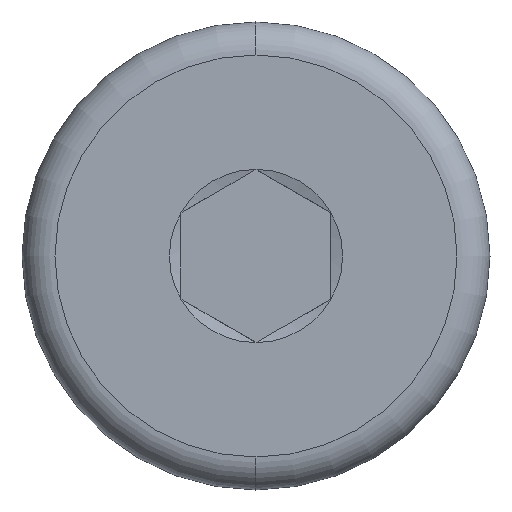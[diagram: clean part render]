
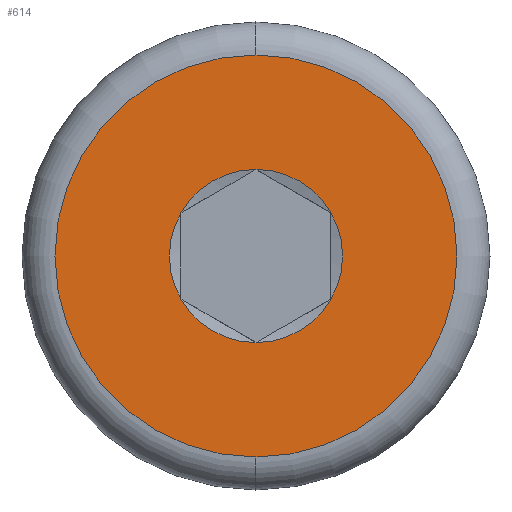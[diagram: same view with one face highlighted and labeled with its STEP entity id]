
A CAD part, left-side view. The second image highlights one B-rep face of the part: STEP entity #614.
In plain terms, the highlighted planar face has unit normal (-1, 0, 0).
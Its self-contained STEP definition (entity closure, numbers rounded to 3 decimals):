
#2 = ORIENTED_EDGE ( 'NONE', *, *, #269, .T. ) ;
#12 = DIRECTION ( 'NONE',  ( 0., 0., -1. ) ) ;
#17 = AXIS2_PLACEMENT_3D ( 'NONE', #59, #284, #492 ) ;
#22 = FACE_BOUND ( 'NONE', #627, .T. ) ;
#29 = VERTEX_POINT ( 'NONE', #661 ) ;
#55 = CARTESIAN_POINT ( 'NONE',  ( 0., -2.5, -1.443 ) ) ;
#59 = CARTESIAN_POINT ( 'NONE',  ( 0., 0., 0. ) ) ;
#64 = CARTESIAN_POINT ( 'NONE',  ( 0., 0., 0. ) ) ;
#71 = DIRECTION ( 'NONE',  ( 1., 0., 0. ) ) ;
#89 = VERTEX_POINT ( 'NONE', #386 ) ;
#103 = AXIS2_PLACEMENT_3D ( 'NONE', #338, #71, #198 ) ;
#104 = VERTEX_POINT ( 'NONE', #291 ) ;
#112 = ORIENTED_EDGE ( 'NONE', *, *, #279, .T. ) ;
#137 = CARTESIAN_POINT ( 'NONE',  ( 0., 0., 0. ) ) ;
#143 = AXIS2_PLACEMENT_3D ( 'NONE', #359, #563, #258 ) ;
#157 = ORIENTED_EDGE ( 'NONE', *, *, #557, .T. ) ;
#172 = AXIS2_PLACEMENT_3D ( 'NONE', #444, #588, #12 ) ;
#184 = AXIS2_PLACEMENT_3D ( 'NONE', #64, #536, #237 ) ;
#190 = VERTEX_POINT ( 'NONE', #406 ) ;
#198 = DIRECTION ( 'NONE',  ( 0., 0., -1. ) ) ;
#200 = CARTESIAN_POINT ( 'NONE',  ( 0., 0., 0. ) ) ;
#201 = VERTEX_POINT ( 'NONE', #611 ) ;
#208 = DIRECTION ( 'NONE',  ( 1., 0., 0. ) ) ;
#231 = CIRCLE ( 'NONE', #494, 2.887 ) ;
#237 = DIRECTION ( 'NONE',  ( 0., 0., -1. ) ) ;
#240 = CARTESIAN_POINT ( 'NONE',  ( 0., 0., -2.887 ) ) ;
#242 = ORIENTED_EDGE ( 'NONE', *, *, #387, .T. ) ;
#244 = AXIS2_PLACEMENT_3D ( 'NONE', #560, #606, #508 ) ;
#258 = DIRECTION ( 'NONE',  ( 0., 0., -1. ) ) ;
#269 = EDGE_CURVE ( 'NONE', #428, #654, #558, .T. ) ;
#279 = EDGE_CURVE ( 'NONE', #654, #201, #673, .T. ) ;
#284 = DIRECTION ( 'NONE',  ( -1., 0., 0. ) ) ;
#286 = FACE_OUTER_BOUND ( 'NONE', #525, .T. ) ;
#291 = CARTESIAN_POINT ( 'NONE',  ( 0., 2.5, 1.443 ) ) ;
#309 = CIRCLE ( 'NONE', #184, 6.7 ) ;
#323 = EDGE_CURVE ( 'NONE', #190, #428, #231, .T. ) ;
#338 = CARTESIAN_POINT ( 'NONE',  ( 0., 0., 0. ) ) ;
#359 = CARTESIAN_POINT ( 'NONE',  ( 0., 0., 0. ) ) ;
#370 = DIRECTION ( 'NONE',  ( 0., 0., -1. ) ) ;
#386 = CARTESIAN_POINT ( 'NONE',  ( 0., 0., 2.887 ) ) ;
#387 = EDGE_CURVE ( 'NONE', #104, #89, #598, .T. ) ;
#391 = VERTEX_POINT ( 'NONE', #421 ) ;
#401 = ORIENTED_EDGE ( 'NONE', *, *, #534, .F. ) ;
#403 = DIRECTION ( 'NONE',  ( 1., 0., 0. ) ) ;
#406 = CARTESIAN_POINT ( 'NONE',  ( 0., -2.5, 1.443 ) ) ;
#408 = CIRCLE ( 'NONE', #103, 2.887 ) ;
#416 = DIRECTION ( 'NONE',  ( 1., 0., 0. ) ) ;
#421 = CARTESIAN_POINT ( 'NONE',  ( 0., 0., -6.7 ) ) ;
#428 = VERTEX_POINT ( 'NONE', #55 ) ;
#444 = CARTESIAN_POINT ( 'NONE',  ( 0., 0., 0. ) ) ;
#465 = AXIS2_PLACEMENT_3D ( 'NONE', #137, #403, #660 ) ;
#478 = CARTESIAN_POINT ( 'NONE',  ( 0., 0., 0. ) ) ;
#480 = ORIENTED_EDGE ( 'NONE', *, *, #323, .T. ) ;
#492 = DIRECTION ( 'NONE',  ( 0., 0., 1. ) ) ;
#494 = AXIS2_PLACEMENT_3D ( 'NONE', #200, #416, #616 ) ;
#508 = DIRECTION ( 'NONE',  ( 0., 0., -1. ) ) ;
#525 = EDGE_LOOP ( 'NONE', ( #401, #644 ) ) ;
#534 = EDGE_CURVE ( 'NONE', #391, #29, #309, .T. ) ;
#536 = DIRECTION ( 'NONE',  ( 1., 0., 0. ) ) ;
#546 = AXIS2_PLACEMENT_3D ( 'NONE', #478, #208, #370 ) ;
#547 = ORIENTED_EDGE ( 'NONE', *, *, #643, .T. ) ;
#557 = EDGE_CURVE ( 'NONE', #89, #190, #583, .T. ) ;
#558 = CIRCLE ( 'NONE', #143, 2.887 ) ;
#560 = CARTESIAN_POINT ( 'NONE',  ( 0., 0., 0. ) ) ;
#563 = DIRECTION ( 'NONE',  ( 1., 0., 0. ) ) ;
#578 = PLANE ( 'NONE',  #17 ) ;
#583 = CIRCLE ( 'NONE', #172, 2.887 ) ;
#588 = DIRECTION ( 'NONE',  ( 1., 0., 0. ) ) ;
#598 = CIRCLE ( 'NONE', #546, 2.887 ) ;
#606 = DIRECTION ( 'NONE',  ( 1., 0., 0. ) ) ;
#611 = CARTESIAN_POINT ( 'NONE',  ( 0., 2.5, -1.443 ) ) ;
#614 = ADVANCED_FACE ( 'NONE', ( #22, #286 ), #578, .T. ) ;
#616 = DIRECTION ( 'NONE',  ( 0., 0., -1. ) ) ;
#627 = EDGE_LOOP ( 'NONE', ( #242, #157, #480, #2, #112, #547 ) ) ;
#643 = EDGE_CURVE ( 'NONE', #201, #104, #408, .T. ) ;
#644 = ORIENTED_EDGE ( 'NONE', *, *, #663, .F. ) ;
#654 = VERTEX_POINT ( 'NONE', #240 ) ;
#660 = DIRECTION ( 'NONE',  ( 0., 0., -1. ) ) ;
#661 = CARTESIAN_POINT ( 'NONE',  ( 0., 0., 6.7 ) ) ;
#663 = EDGE_CURVE ( 'NONE', #29, #391, #672, .T. ) ;
#672 = CIRCLE ( 'NONE', #244, 6.7 ) ;
#673 = CIRCLE ( 'NONE', #465, 2.887 ) ;
